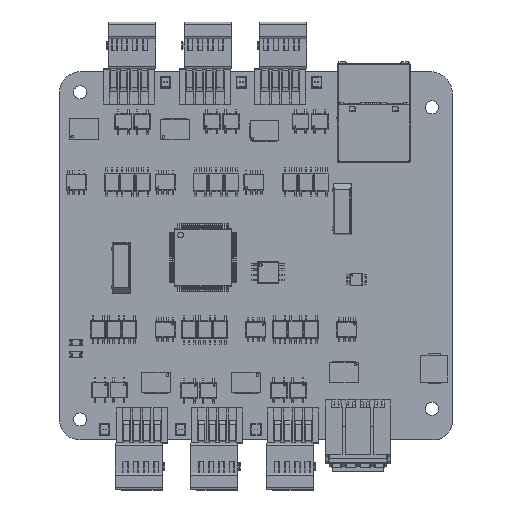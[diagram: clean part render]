
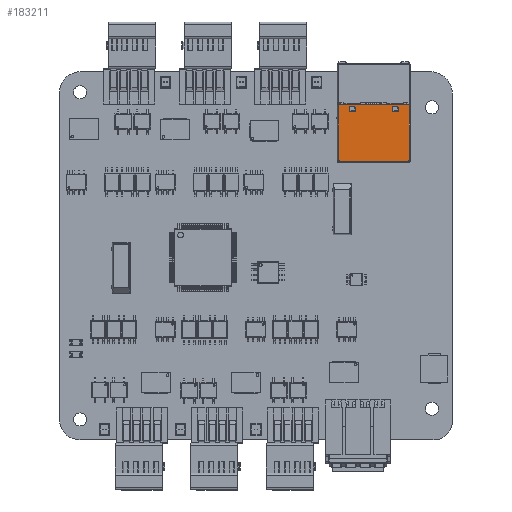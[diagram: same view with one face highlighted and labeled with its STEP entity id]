
A CAD part, top view. The second image highlights one B-rep face of the part: STEP entity #183211.
In plain terms, the highlighted planar face has unit normal (0, 0, 1).
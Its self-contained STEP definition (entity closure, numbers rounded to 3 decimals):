
#1557=FACE_BOUND('',#27102,.T.);
#1558=FACE_BOUND('',#27103,.T.);
#5684=CIRCLE('',#196935,0.1);
#5685=CIRCLE('',#196936,0.1);
#5686=CIRCLE('',#196937,0.1);
#5687=CIRCLE('',#196938,0.1);
#5688=CIRCLE('',#196939,0.1);
#5689=CIRCLE('',#196940,0.1);
#5690=CIRCLE('',#196941,0.1);
#5691=CIRCLE('',#196942,0.1);
#16903=FACE_OUTER_BOUND('',#27101,.T.);
#27101=EDGE_LOOP('',(#163376,#163377,#163378,#163379,#163380,#163381,#163382,
#163383));
#27102=EDGE_LOOP('',(#163384,#163385,#163386,#163387,#163388,#163389,#163390,
#163391));
#27103=EDGE_LOOP('',(#163392,#163393,#163394,#163395,#163396,#163397,#163398,
#163399));
#47428=LINE('',#294286,#69163);
#48321=LINE('',#296338,#70056);
#48322=LINE('',#296340,#70057);
#48323=LINE('',#296343,#70058);
#48325=LINE('',#296349,#70060);
#48326=LINE('',#296351,#70061);
#48331=LINE('',#296361,#70066);
#48332=LINE('',#296363,#70067);
#48339=LINE('',#296374,#70074);
#48340=LINE('',#296380,#70075);
#48341=LINE('',#296384,#70076);
#48342=LINE('',#296388,#70077);
#48343=LINE('',#296391,#70078);
#48344=LINE('',#296396,#70079);
#48345=LINE('',#296400,#70080);
#48346=LINE('',#296404,#70081);
#69163=VECTOR('',#241853,1000.);
#70056=VECTOR('',#243730,1000.);
#70057=VECTOR('',#243733,1000.);
#70058=VECTOR('',#243736,1000.);
#70060=VECTOR('',#243744,1000.);
#70061=VECTOR('',#243747,1000.);
#70066=VECTOR('',#243756,1000.);
#70067=VECTOR('',#243759,1000.);
#70074=VECTOR('',#243774,1000.);
#70075=VECTOR('',#243779,1000.);
#70076=VECTOR('',#243782,1000.);
#70077=VECTOR('',#243785,1000.);
#70078=VECTOR('',#243788,1000.);
#70079=VECTOR('',#243791,1000.);
#70080=VECTOR('',#243794,1000.);
#70081=VECTOR('',#243799,1000.);
#86755=VERTEX_POINT('',#294283);
#86756=VERTEX_POINT('',#294285);
#87357=VERTEX_POINT('',#296247);
#87358=VERTEX_POINT('',#296251);
#87363=VERTEX_POINT('',#296279);
#87364=VERTEX_POINT('',#296283);
#87375=VERTEX_POINT('',#296336);
#87376=VERTEX_POINT('',#296342);
#87377=VERTEX_POINT('',#296347);
#87380=VERTEX_POINT('',#296359);
#87381=VERTEX_POINT('',#296376);
#87382=VERTEX_POINT('',#296377);
#87383=VERTEX_POINT('',#296379);
#87384=VERTEX_POINT('',#296381);
#87385=VERTEX_POINT('',#296383);
#87386=VERTEX_POINT('',#296385);
#87387=VERTEX_POINT('',#296387);
#87388=VERTEX_POINT('',#296389);
#87389=VERTEX_POINT('',#296392);
#87390=VERTEX_POINT('',#296393);
#87391=VERTEX_POINT('',#296395);
#87392=VERTEX_POINT('',#296397);
#87393=VERTEX_POINT('',#296399);
#87394=VERTEX_POINT('',#296402);
#111975=EDGE_CURVE('',#86755,#86756,#47428,.T.);
#112971=EDGE_CURVE('',#87375,#87364,#48321,.T.);
#112972=EDGE_CURVE('',#87363,#87358,#48322,.T.);
#112973=EDGE_CURVE('',#87357,#87376,#48323,.T.);
#112976=EDGE_CURVE('',#87357,#87377,#48325,.T.);
#112977=EDGE_CURVE('',#87358,#87377,#48326,.T.);
#112982=EDGE_CURVE('',#87363,#87380,#48331,.T.);
#112983=EDGE_CURVE('',#87380,#87364,#48332,.T.);
#112990=EDGE_CURVE('',#87375,#87376,#48339,.T.);
#112991=EDGE_CURVE('',#87381,#87382,#5684,.T.);
#112992=EDGE_CURVE('',#87383,#87381,#48340,.T.);
#112993=EDGE_CURVE('',#87384,#87383,#5685,.T.);
#112994=EDGE_CURVE('',#87385,#87384,#48341,.T.);
#112995=EDGE_CURVE('',#87386,#87385,#5686,.T.);
#112996=EDGE_CURVE('',#87387,#87386,#48342,.T.);
#112997=EDGE_CURVE('',#87388,#87387,#5687,.T.);
#112998=EDGE_CURVE('',#87382,#87388,#48343,.T.);
#112999=EDGE_CURVE('',#87389,#87390,#5688,.T.);
#113000=EDGE_CURVE('',#87391,#87389,#48344,.T.);
#113001=EDGE_CURVE('',#87392,#87391,#5689,.T.);
#113002=EDGE_CURVE('',#87393,#87392,#48345,.T.);
#113003=EDGE_CURVE('',#86756,#87393,#5690,.T.);
#113004=EDGE_CURVE('',#87394,#86755,#5691,.T.);
#113005=EDGE_CURVE('',#87390,#87394,#48346,.T.);
#163376=ORIENTED_EDGE('',*,*,#112971,.F.);
#163377=ORIENTED_EDGE('',*,*,#112990,.T.);
#163378=ORIENTED_EDGE('',*,*,#112973,.F.);
#163379=ORIENTED_EDGE('',*,*,#112976,.T.);
#163380=ORIENTED_EDGE('',*,*,#112977,.F.);
#163381=ORIENTED_EDGE('',*,*,#112972,.F.);
#163382=ORIENTED_EDGE('',*,*,#112982,.T.);
#163383=ORIENTED_EDGE('',*,*,#112983,.T.);
#163384=ORIENTED_EDGE('',*,*,#112991,.F.);
#163385=ORIENTED_EDGE('',*,*,#112992,.F.);
#163386=ORIENTED_EDGE('',*,*,#112993,.F.);
#163387=ORIENTED_EDGE('',*,*,#112994,.F.);
#163388=ORIENTED_EDGE('',*,*,#112995,.F.);
#163389=ORIENTED_EDGE('',*,*,#112996,.F.);
#163390=ORIENTED_EDGE('',*,*,#112997,.F.);
#163391=ORIENTED_EDGE('',*,*,#112998,.F.);
#163392=ORIENTED_EDGE('',*,*,#112999,.F.);
#163393=ORIENTED_EDGE('',*,*,#113000,.F.);
#163394=ORIENTED_EDGE('',*,*,#113001,.F.);
#163395=ORIENTED_EDGE('',*,*,#113002,.F.);
#163396=ORIENTED_EDGE('',*,*,#113003,.F.);
#163397=ORIENTED_EDGE('',*,*,#111975,.F.);
#163398=ORIENTED_EDGE('',*,*,#113004,.F.);
#163399=ORIENTED_EDGE('',*,*,#113005,.F.);
#174026=PLANE('',#196934);
#183211=ADVANCED_FACE('',(#16903,#1557,#1558),#174026,.T.);
#196934=AXIS2_PLACEMENT_3D('',#296375,#243775,#243776);
#196935=AXIS2_PLACEMENT_3D('',#296378,#243777,#243778);
#196936=AXIS2_PLACEMENT_3D('',#296382,#243780,#243781);
#196937=AXIS2_PLACEMENT_3D('',#296386,#243783,#243784);
#196938=AXIS2_PLACEMENT_3D('',#296390,#243786,#243787);
#196939=AXIS2_PLACEMENT_3D('',#296394,#243789,#243790);
#196940=AXIS2_PLACEMENT_3D('',#296398,#243792,#243793);
#196941=AXIS2_PLACEMENT_3D('',#296401,#243795,#243796);
#196942=AXIS2_PLACEMENT_3D('',#296403,#243797,#243798);
#241853=DIRECTION('',(-1.,0.,0.));
#243730=DIRECTION('',(0.,-1.,0.));
#243733=DIRECTION('',(-1.,0.,0.));
#243736=DIRECTION('',(0.,1.,0.));
#243744=DIRECTION('',(1.,0.,0.));
#243747=DIRECTION('',(0.,1.,0.));
#243756=DIRECTION('',(0.,1.,0.));
#243759=DIRECTION('',(1.,0.,0.));
#243774=DIRECTION('',(-1.,0.,0.));
#243775=DIRECTION('center_axis',(0.,0.,
1.));
#243776=DIRECTION('ref_axis',(0.,-1.,0.));
#243777=DIRECTION('center_axis',(0.,0.,
1.));
#243778=DIRECTION('ref_axis',(0.,1.,0.));
#243779=DIRECTION('',(0.,1.,0.));
#243780=DIRECTION('center_axis',(0.,0.,
1.));
#243781=DIRECTION('ref_axis',(0.,-1.,0.));
#243782=DIRECTION('',(1.,0.,0.));
#243783=DIRECTION('center_axis',(0.,0.,
1.));
#243784=DIRECTION('ref_axis',(0.,-1.,0.));
#243785=DIRECTION('',(0.,-1.,0.));
#243786=DIRECTION('center_axis',(0.,0.,
1.));
#243787=DIRECTION('ref_axis',(0.,-1.,0.));
#243788=DIRECTION('',(-1.,0.,0.));
#243789=DIRECTION('center_axis',(0.,0.,
1.));
#243790=DIRECTION('ref_axis',(0.,1.,0.));
#243791=DIRECTION('',(1.,0.,0.));
#243792=DIRECTION('center_axis',(0.,0.,
1.));
#243793=DIRECTION('ref_axis',(0.,1.,0.));
#243794=DIRECTION('',(0.,-1.,0.));
#243795=DIRECTION('center_axis',(0.,0.,
1.));
#243796=DIRECTION('ref_axis',(0.,-1.,0.));
#243797=DIRECTION('center_axis',(0.,0.,
1.));
#243798=DIRECTION('ref_axis',(0.,1.,0.));
#243799=DIRECTION('',(0.,1.,0.));
#294283=CARTESIAN_POINT('',(82.67,81.377,13.309));
#294285=CARTESIAN_POINT('',(81.37,81.377,13.309));
#294286=CARTESIAN_POINT('',(82.67,81.377,13.309));
#296247=CARTESIAN_POINT('',(68.13,68.377,13.309));
#296251=CARTESIAN_POINT('',(68.307,68.127,13.309));
#296279=CARTESIAN_POINT('',(85.233,68.127,13.309));
#296283=CARTESIAN_POINT('',(85.41,68.377,13.309));
#296336=CARTESIAN_POINT('',(85.41,81.877,13.309));
#296338=CARTESIAN_POINT('',(85.41,92.007,13.309));
#296340=CARTESIAN_POINT('',(76.77,68.127,13.309));
#296342=CARTESIAN_POINT('',(68.13,81.877,13.309));
#296343=CARTESIAN_POINT('',(68.13,92.007,13.309));
#296347=CARTESIAN_POINT('',(68.307,68.377,13.309));
#296349=CARTESIAN_POINT('',(68.307,68.377,13.309));
#296351=CARTESIAN_POINT('',(68.307,91.757,13.309));
#296359=CARTESIAN_POINT('',(85.233,68.377,13.309));
#296361=CARTESIAN_POINT('',(85.233,92.007,13.309));
#296363=CARTESIAN_POINT('',(85.233,68.377,13.309));
#296374=CARTESIAN_POINT('',(68.307,81.877,13.309));
#296375=CARTESIAN_POINT('Origin',(76.77,92.007,13.309));
#296376=CARTESIAN_POINT('',(72.27,81.277,13.309));
#296377=CARTESIAN_POINT('',(72.17,81.377,13.309));
#296378=CARTESIAN_POINT('Origin',(72.17,81.277,13.309));
#296379=CARTESIAN_POINT('',(72.27,80.477,13.309));
#296380=CARTESIAN_POINT('',(72.27,81.277,13.309));
#296381=CARTESIAN_POINT('',(72.17,80.377,13.309));
#296382=CARTESIAN_POINT('Origin',(72.17,80.477,13.309));
#296383=CARTESIAN_POINT('',(70.87,80.377,13.309));
#296384=CARTESIAN_POINT('',(70.87,80.377,13.309));
#296385=CARTESIAN_POINT('',(70.77,80.477,13.309));
#296386=CARTESIAN_POINT('Origin',(70.87,80.477,13.309));
#296387=CARTESIAN_POINT('',(70.77,81.277,13.309));
#296388=CARTESIAN_POINT('',(70.77,81.277,13.309));
#296389=CARTESIAN_POINT('',(70.87,81.377,13.309));
#296390=CARTESIAN_POINT('Origin',(70.87,81.277,13.309));
#296391=CARTESIAN_POINT('',(70.87,81.377,13.309));
#296392=CARTESIAN_POINT('',(82.67,80.377,13.309));
#296393=CARTESIAN_POINT('',(82.77,80.477,13.309));
#296394=CARTESIAN_POINT('Origin',(82.67,80.477,13.309));
#296395=CARTESIAN_POINT('',(81.37,80.377,13.309));
#296396=CARTESIAN_POINT('',(82.67,80.377,13.309));
#296397=CARTESIAN_POINT('',(81.27,80.477,13.309));
#296398=CARTESIAN_POINT('Origin',(81.37,80.477,13.309));
#296399=CARTESIAN_POINT('',(81.27,81.277,13.309));
#296400=CARTESIAN_POINT('',(81.27,81.277,13.309));
#296401=CARTESIAN_POINT('Origin',(81.37,81.277,13.309));
#296402=CARTESIAN_POINT('',(82.77,81.277,13.309));
#296403=CARTESIAN_POINT('Origin',(82.67,81.277,13.309));
#296404=CARTESIAN_POINT('',(82.77,81.277,13.309));
